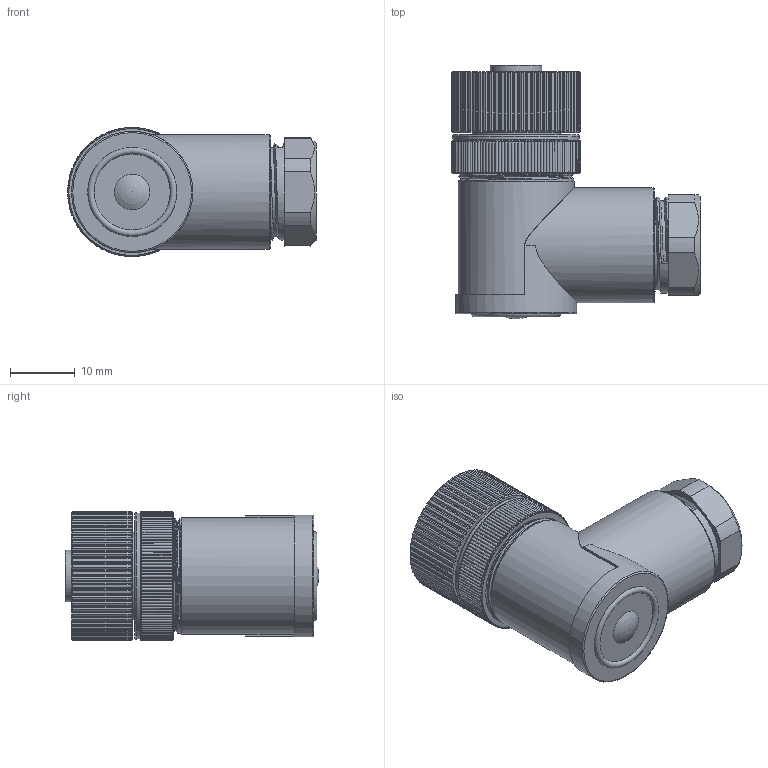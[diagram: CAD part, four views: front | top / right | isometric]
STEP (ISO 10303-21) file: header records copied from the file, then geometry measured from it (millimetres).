
FILE_DESCRIPTION(/* description */ (''),/* implementation_level */ '2;1');
FILE_NAME(/* name */ 'M12-5FR-PG9.stp',/* time_stamp */ '2024-08-14T10:59:21+08:00',/* author */ (''),/* organization */ (''),/* preprocessor_version */ 'ST-DEVELOPER v16.7',/* originating_system */ 'SIEMENS PLM Software NX 12.0',/* authorisation */ '');
FILE_SCHEMA (('AP203_CONFIGURATION_CONTROLLED_3D_DESIGN_OF_MECHANICAL_PARTS_AND_ASSEMBLIES_MIM_LF { 1 0 10303 403 2 1 2}'));
Length unit declared in the file: millimetre
Products named in the file (1): lyj2EFCE3066omh
Bounding box: 38.54 x 39.3 x 20 mm (x, y, z)
Surface area: 11656.3 mm2
Topology: 10 solids, 11 shells, 1249 faces, 3075 edges, 1886 vertices
Faces by surface type: cone 414, plane 390, cylinder 380, torus 25, extrusion 25, bspline 13, sphere 2
Full cylindrical faces by diameter (mm): 1 x15, 1.2 x5, 1.3 x10, 1.4 x5, 1.6 x20, 2 x4, 8 x1, 9.2 x1, 9.8 x1, 10 x1, 10.2 x1, 10.7 x1, 11.1 x7, 11.2 x1, 13.2 x1, 13.6 x1, 13.8 x1, 14.2 x3, 14.3 x1, 14.4 x1, 14.7 x1, 15.8 x1, 16.7 x1, 17.8 x1, 18 x1, 18.8 x1, 19.6 x1
Entity records: 51202 total; most frequent: CARTESIAN_POINT 23297, ORIENTED_EDGE 5746, DIRECTION 5738, EDGE_CURVE 2873, AXIS2_PLACEMENT_3D 2347, VERTEX_POINT 1805, EDGE_LOOP 1426, ADVANCED_FACE 1238
